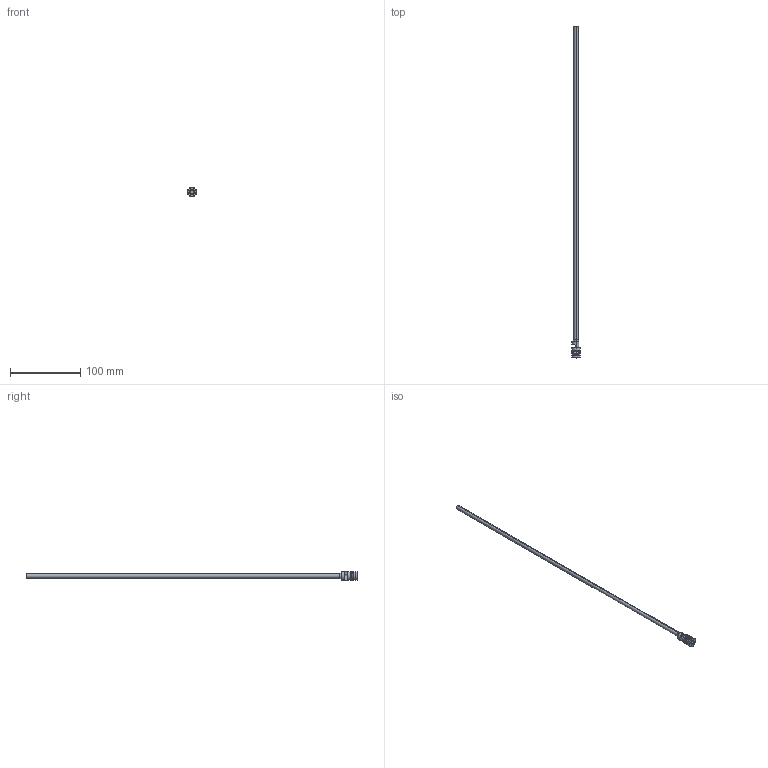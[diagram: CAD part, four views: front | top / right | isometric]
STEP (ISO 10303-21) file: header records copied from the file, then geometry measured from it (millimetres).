
FILE_DESCRIPTION (( 'STEP AP203' ), '1' );
FILE_NAME ('RF-12Fx450.STEP', '2017-12-04T07:53:11', ( 'Balzi' ), ( '' ), 'SwSTEP 2.0', 'SolidWorks 2017', '' );
FILE_SCHEMA (( 'CONFIG_CONTROL_DESIGN' ));
Length unit declared in the file: millimetre
Products named in the file (1): RF-12Fx450
Bounding box: 13.3 x 474 x 13.3 mm (x, y, z)
Volume: 5753.2 mm3; surface area: 17212.6 mm2
Topology: 1 solids, 1 shells, 72 faces, 164 edges, 102 vertices
Faces by surface type: cylinder 26, plane 26, cone 12, torus 8
Entity records: 2124 total; most frequent: DIRECTION 387, CARTESIAN_POINT 358, ORIENTED_EDGE 328, EDGE_CURVE 164, AXIS2_PLACEMENT_3D 155, VERTEX_POINT 102, EDGE_LOOP 82, CIRCLE 82
